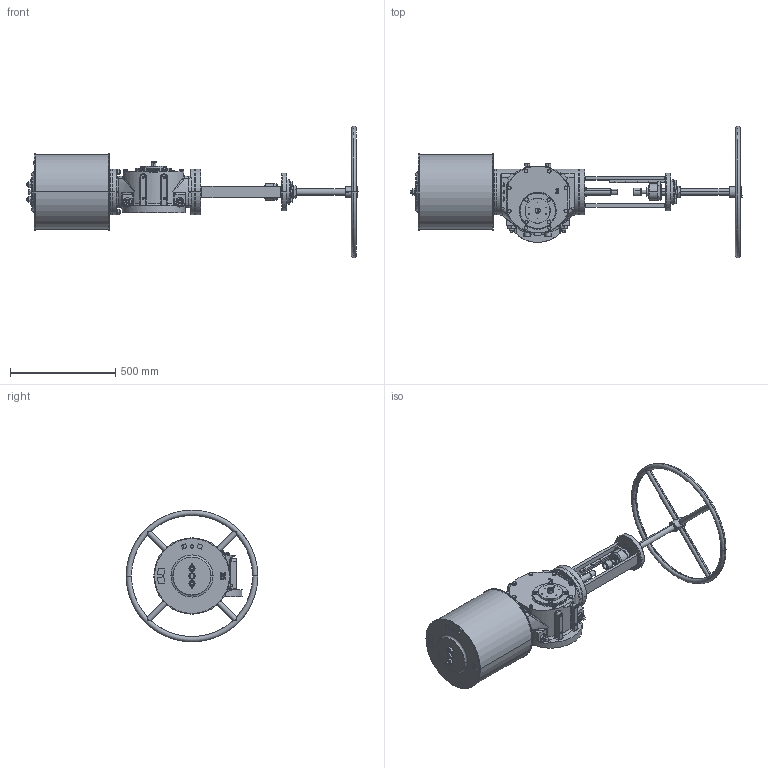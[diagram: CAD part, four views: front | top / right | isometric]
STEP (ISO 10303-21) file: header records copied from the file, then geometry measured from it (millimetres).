
FILE_DESCRIPTION (( 'STEP AP203' ), '1' );
FILE_NAME ('VTS3-350-MSD.STEP', '2023-01-01T09:12:57', ( '' ), ( '' ), 'SwSTEP 2.0', 'SolidWorks 2020', '' );
FILE_SCHEMA (( 'CONFIG_CONTROL_DESIGN' ));
Length unit declared in the file: millimetre
Products named in the file (1): VTS3-350-MSD
Bounding box: 1576.03 x 625 x 625 mm (x, y, z)
Volume: 59031373.1 mm3; surface area: 2122552.1 mm2
Topology: 3 solids, 21 shells, 2594 faces, 6575 edges, 4108 vertices
Faces by surface type: plane 1107, cylinder 796, cone 510, bspline 139, torus 42
Entity records: 95841 total; most frequent: CARTESIAN_POINT 34861, ORIENTED_EDGE 12948, DIRECTION 12562, EDGE_CURVE 6474, AXIS2_PLACEMENT_3D 4932, VERTEX_POINT 4108, EDGE_LOOP 2896, VECTOR 2698
